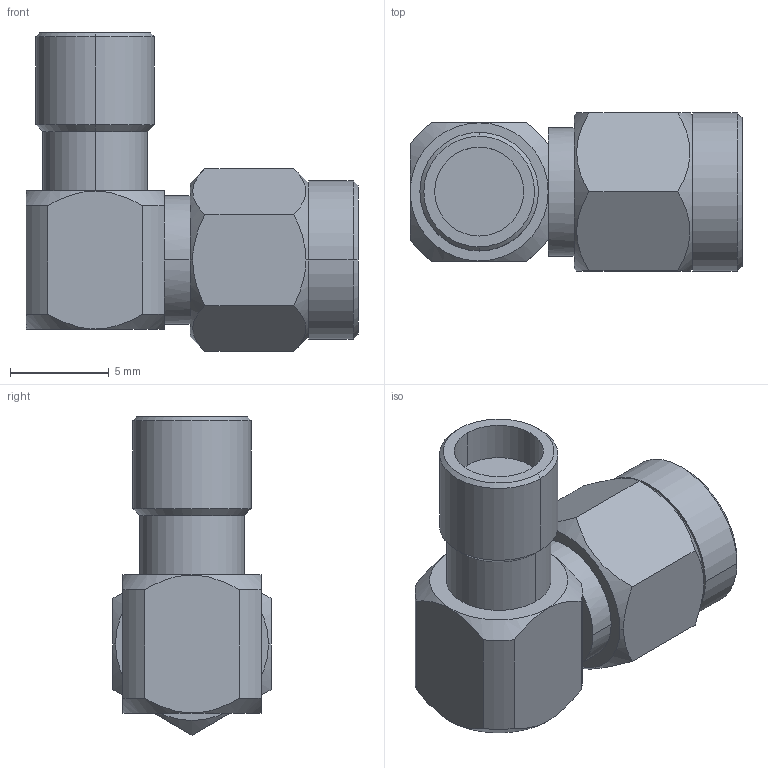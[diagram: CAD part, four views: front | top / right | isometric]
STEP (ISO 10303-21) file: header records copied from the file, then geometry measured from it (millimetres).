
FILE_DESCRIPTION (( 'STEP AP214' ), '1' );
FILE_NAME ('CMS-ANT-SMA.STEP', '2024-04-18T09:05:44', ( '' ), ( '' ), 'SwSTEP 2.0', 'SolidWorks 2022', '' );
FILE_SCHEMA (( 'AUTOMOTIVE_DESIGN' ));
Length unit declared in the file: millimetre
Products named in the file (1): CMS-ANT-SMA
Bounding box: 16.8 x 8 x 16.12 mm (x, y, z)
Volume: 925 mm3; surface area: 788.4 mm2
Topology: 1 solids, 1 shells, 51 faces, 120 edges, 76 vertices
Faces by surface type: plane 21, cylinder 16, cone 14
Entity records: 1712 total; most frequent: CARTESIAN_POINT 516, DIRECTION 244, ORIENTED_EDGE 240, EDGE_CURVE 120, AXIS2_PLACEMENT_3D 100, VERTEX_POINT 76, EDGE_LOOP 56, ADVANCED_FACE 51
